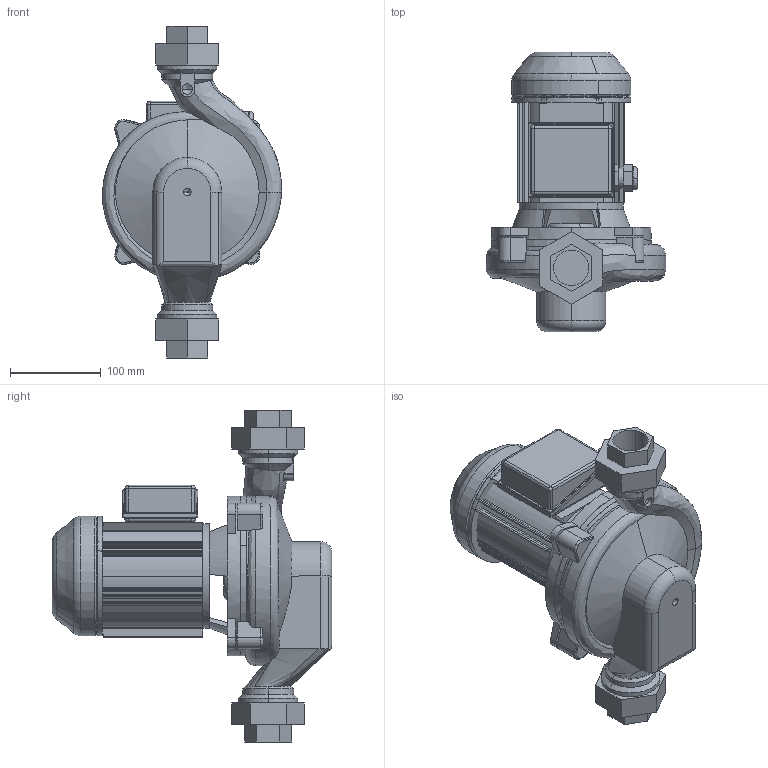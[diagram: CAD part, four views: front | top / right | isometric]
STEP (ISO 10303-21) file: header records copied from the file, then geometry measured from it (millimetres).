
FILE_DESCRIPTION(('STEP AP214'),'1');
FILE_NAME('export.stp','2018-05-28T13:47:58',(' '),(' '),'Spatial InterOp 3D',' ',' ');
FILE_SCHEMA(('AUTOMOTIVE_DESIGN { 1 0 10303 214 1 1 1 1 }'));
Length unit declared in the file: millimetre
Products named in the file (8): V_MOP752753762; RU_OP_752_753_762; TSUOJA_OP_7; KYTKOTELO_OP7_OKN8; W_AE334200; V_EKN13OP752; V_TLAEAP3233L40A; V_PPAE33
Assembly tree (7 placements, depth 3):
  W_AE334200
    V_MOP752753762
      RU_OP_752_753_762
      TSUOJA_OP_7
      KYTKOTELO_OP7_OKN8
    V_EKN13OP752
    V_TLAEAP3233L40A
    V_PPAE33
Bounding box: 197.65 x 308 x 366 mm (x, y, z)
Volume: 3496005.1 mm3; surface area: 482136.6 mm2
Topology: 6 solids, 7 shells, 541 faces, 1442 edges, 926 vertices
Faces by surface type: cylinder 263, plane 164, bspline 48, cone 30, torus 24, sphere 12
Entity records: 30002 total; most frequent: CARTESIAN_POINT 7559, DIRECTION 2849, ORIENTED_EDGE 2848, STYLED_ITEM 1445, PRESENTATION_STYLE_ASSIGNMENT 1445, COLOUR_RGB 1445, EDGE_CURVE 1424, AXIS2_PLACEMENT_3D 1130
